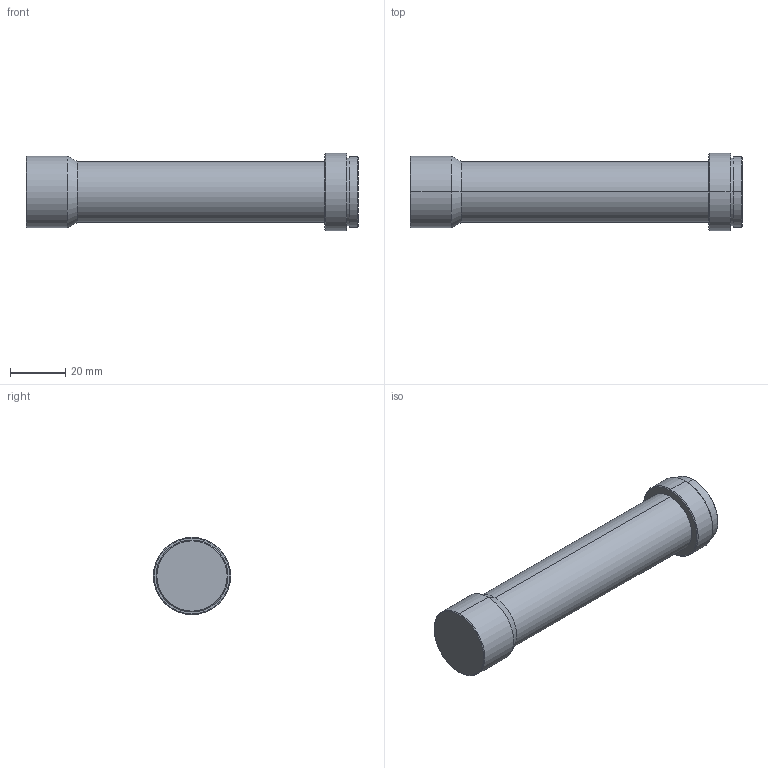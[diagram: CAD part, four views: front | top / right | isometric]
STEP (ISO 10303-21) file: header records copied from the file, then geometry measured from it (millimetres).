
FILE_DESCRIPTION (( 'STEP AP203' ), '1' );
FILE_NAME ('WWH60-65AT STEPͼ.STEP', '2019-10-27T06:27:48', ( '' ), ( '' ), 'SwSTEP 2.0', 'SolidWorks 2014', '' );
FILE_SCHEMA (( 'CONFIG_CONTROL_DESIGN' ));
Length unit declared in the file: millimetre
Products named in the file (1): WWH60-65AT STEPͼ
Bounding box: 120.1 x 28 x 28 mm (x, y, z)
Volume: 50517.3 mm3; surface area: 10143 mm2
Topology: 1 solids, 1 shells, 25 faces, 48 edges, 28 vertices
Faces by surface type: cone 10, cylinder 10, plane 5
Entity records: 711 total; most frequent: DIRECTION 128, CARTESIAN_POINT 102, ORIENTED_EDGE 96, AXIS2_PLACEMENT_3D 54, EDGE_CURVE 48, CIRCLE 28, VERTEX_POINT 28, EDGE_LOOP 28
